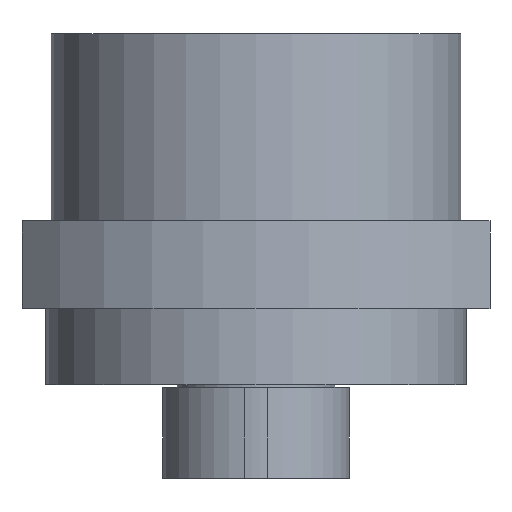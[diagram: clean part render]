
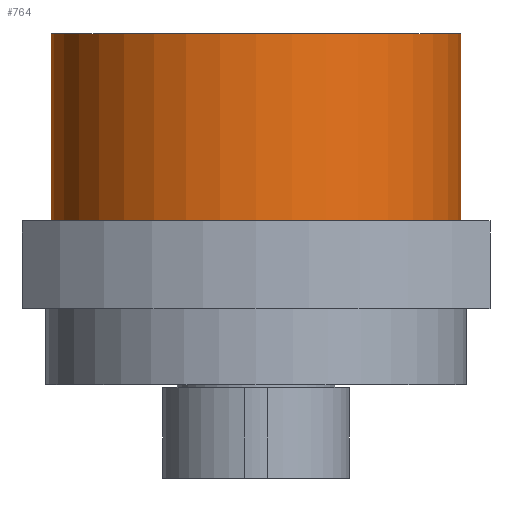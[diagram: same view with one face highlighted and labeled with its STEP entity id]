
A CAD part, front view. The second image highlights one B-rep face of the part: STEP entity #764.
In plain terms, the highlighted cylindrical face has radius 35 mm (diameter 70 mm), a full revolution.
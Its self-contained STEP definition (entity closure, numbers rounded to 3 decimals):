
#37=CYLINDRICAL_SURFACE($,#868,35.);
#140=FACE_BOUND($,#280,.T.);
#199=FACE_OUTER_BOUND($,#279,.T.);
#279=EDGE_LOOP($,(#653));
#280=EDGE_LOOP($,(#654));
#354=CIRCLE($,#869,35.);
#355=CIRCLE($,#870,35.);
#422=VERTEX_POINT($,#1313);
#423=VERTEX_POINT($,#1315);
#506=EDGE_CURVE($,#422,#422,#354,.T.);
#507=EDGE_CURVE($,#423,#423,#355,.T.);
#653=ORIENTED_EDGE($,*,*,#506,.F.);
#654=ORIENTED_EDGE($,*,*,#507,.F.);
#764=ADVANCED_FACE($,(#199,#140),#37,.T.);
#868=AXIS2_PLACEMENT_3D($,#1312,#1094,#1095);
#869=AXIS2_PLACEMENT_3D($,#1314,#1096,#1097);
#870=AXIS2_PLACEMENT_3D($,#1316,#1098,#1099);
#1094=DIRECTION('center_axis',(0.,0.,1.));
#1095=DIRECTION('ref_axis',(-1.,0.,0.));
#1096=DIRECTION('center_axis',(0.,0.,1.));
#1097=DIRECTION('ref_axis',(-1.,0.,0.));
#1098=DIRECTION('center_axis',(0.,0.,-1.));
#1099=DIRECTION('ref_axis',(-1.,0.,0.));
#1312=CARTESIAN_POINT('Origin',(0.,0.,16.));
#1313=CARTESIAN_POINT('',(35.,0.,48.));
#1314=CARTESIAN_POINT('Origin',(0.,0.,48.));
#1315=CARTESIAN_POINT('',(35.,0.,16.));
#1316=CARTESIAN_POINT('Origin',(0.,0.,16.));
